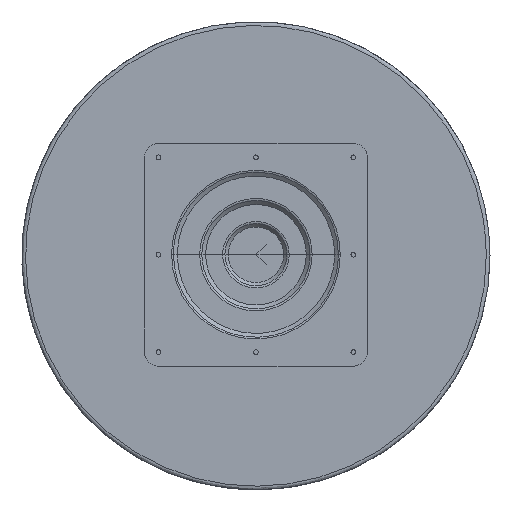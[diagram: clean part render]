
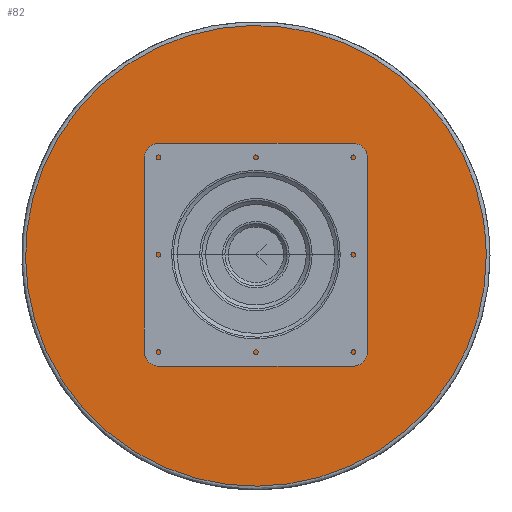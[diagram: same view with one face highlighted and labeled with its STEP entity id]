
A CAD part, top view. The second image highlights one B-rep face of the part: STEP entity #82.
In plain terms, the highlighted planar face has unit normal (0, 0, 1).
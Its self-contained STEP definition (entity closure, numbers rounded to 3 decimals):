
#33=FACE_BOUND('',#307,.T.);
#82=ADVANCED_FACE('',(#185,#33),#1446,.T.);
#185=FACE_OUTER_BOUND('',#306,.T.);
#306=EDGE_LOOP('',(#571));
#307=EDGE_LOOP('',(#572));
#571=ORIENTED_EDGE('',*,*,#937,.F.);
#572=ORIENTED_EDGE('',*,*,#941,.T.);
#937=EDGE_CURVE('',#1359,#1359,#1179,.T.);
#941=EDGE_CURVE('',#1362,#1362,#1183,.T.);
#1179=(
BOUNDED_CURVE()
B_SPLINE_CURVE(2,(#5267,#5268,#5269,#5270,#5271,#5272,#5273,#5274,#5275),
 .UNSPECIFIED.,.T.,.F.)
B_SPLINE_CURVE_WITH_KNOTS((3,2,2,2,3),(0.,386.416,772.831,
1159.247,1545.663),.UNSPECIFIED.)
CURVE()
GEOMETRIC_REPRESENTATION_ITEM()
RATIONAL_B_SPLINE_CURVE((1.,0.707,1.,0.707,1.,0.707,
1.,0.707,1.))
REPRESENTATION_ITEM('')
);
#1183=(
BOUNDED_CURVE()
B_SPLINE_CURVE(2,(#5290,#5291,#5292,#5293,#5294,#5295,#5296,#5297,#5298),
 .UNSPECIFIED.,.T.,.F.)
B_SPLINE_CURVE_WITH_KNOTS((3,2,2,2,3),(0.,33.537,67.073,
100.61,134.146),.UNSPECIFIED.)
CURVE()
GEOMETRIC_REPRESENTATION_ITEM()
RATIONAL_B_SPLINE_CURVE((1.,0.707,1.,0.707,1.,0.707,
1.,0.707,1.))
REPRESENTATION_ITEM('')
);
#1359=VERTEX_POINT('',#4587);
#1362=VERTEX_POINT('',#4590);
#1446=PLANE('',#1564);
#1564=AXIS2_PLACEMENT_3D('',#4054,#1576,$);
#1576=DIRECTION('',(0.,0.,1.));
#4054=CARTESIAN_POINT('',(-312.5,312.5,11.));
#4587=CARTESIAN_POINT('',(246.,0.,11.));
#4590=CARTESIAN_POINT('',(30.25,0.,11.));
#5267=CARTESIAN_POINT('',(246.,0.,11.));
#5268=CARTESIAN_POINT('',(246.,-246.,11.));
#5269=CARTESIAN_POINT('',(0.,-246.,11.));
#5270=CARTESIAN_POINT('',(-246.,-246.,11.));
#5271=CARTESIAN_POINT('',(-246.,0.,11.));
#5272=CARTESIAN_POINT('',(-246.,246.,11.));
#5273=CARTESIAN_POINT('',(0.,246.,11.));
#5274=CARTESIAN_POINT('',(246.,246.,11.));
#5275=CARTESIAN_POINT('',(246.,0.,11.));
#5290=CARTESIAN_POINT('',(30.25,0.,11.));
#5291=CARTESIAN_POINT('',(30.25,-30.25,11.));
#5292=CARTESIAN_POINT('',(0.,-30.25,11.));
#5293=CARTESIAN_POINT('',(-30.25,-30.25,11.));
#5294=CARTESIAN_POINT('',(-30.25,0.,11.));
#5295=CARTESIAN_POINT('',(-30.25,30.25,11.));
#5296=CARTESIAN_POINT('',(0.,30.25,11.));
#5297=CARTESIAN_POINT('',(30.25,30.25,11.));
#5298=CARTESIAN_POINT('',(30.25,0.,11.));
